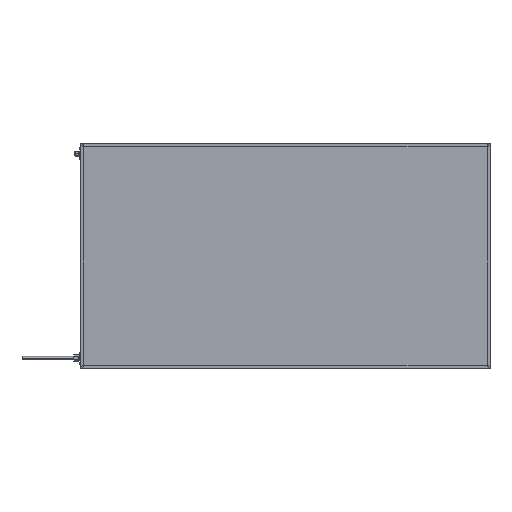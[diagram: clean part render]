
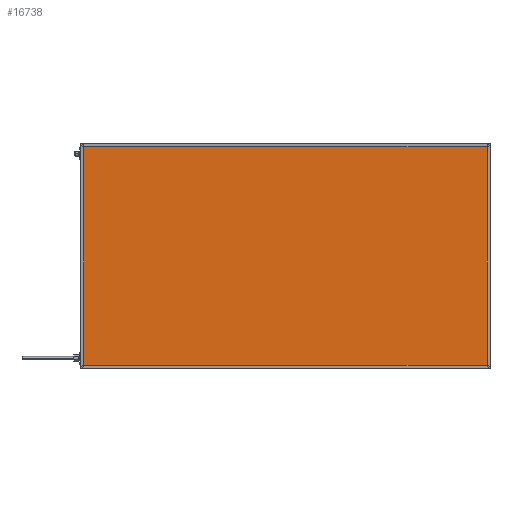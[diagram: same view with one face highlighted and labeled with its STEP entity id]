
A CAD part, top view. The second image highlights one B-rep face of the part: STEP entity #16738.
In plain terms, the highlighted planar face has unit normal (0, 0, 1).
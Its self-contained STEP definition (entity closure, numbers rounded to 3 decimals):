
#489 = DIRECTION ( 'NONE',  ( -1., 0., 0. ) ) ;
#678 = CARTESIAN_POINT ( 'NONE',  ( 4., 596., 41.85 ) ) ;
#704 = VECTOR ( 'NONE', #6067, 1000. ) ;
#820 = LINE ( 'NONE', #9307, #704 ) ;
#2026 = DIRECTION ( 'NONE',  ( 0., 0., -1. ) ) ;
#3065 = LINE ( 'NONE', #4616, #9672 ) ;
#3900 = EDGE_CURVE ( 'NONE', #16006, #14913, #16747, .T. ) ;
#3902 = VECTOR ( 'NONE', #17191, 1000. ) ;
#4616 = CARTESIAN_POINT ( 'NONE',  ( 4., 0., 41.85 ) ) ;
#5105 = CARTESIAN_POINT ( 'NONE',  ( 1096., 596., 41.85 ) ) ;
#6067 = DIRECTION ( 'NONE',  ( -1., 0., 0. ) ) ;
#6079 = DIRECTION ( 'NONE',  ( 1., 0., 0. ) ) ;
#8795 = FACE_OUTER_BOUND ( 'NONE', #14508, .T. ) ;
#9005 = DIRECTION ( 'NONE',  ( 0., -1., 0. ) ) ;
#9307 = CARTESIAN_POINT ( 'NONE',  ( 0., 596., 41.85 ) ) ;
#9672 = VECTOR ( 'NONE', #9005, 1000. ) ;
#11446 = VERTEX_POINT ( 'NONE', #678 ) ;
#11548 = CARTESIAN_POINT ( 'NONE',  ( 0., 4., 41.85 ) ) ;
#11662 = CARTESIAN_POINT ( 'NONE',  ( 4., 4., 41.85 ) ) ;
#11843 = ORIENTED_EDGE ( 'NONE', *, *, #3900, .T. ) ;
#12480 = EDGE_CURVE ( 'NONE', #11446, #16006, #3065, .T. ) ;
#12861 = VECTOR ( 'NONE', #6079, 1000. ) ;
#12997 = CARTESIAN_POINT ( 'NONE',  ( 0., 0., 41.85 ) ) ;
#14421 = AXIS2_PLACEMENT_3D ( 'NONE', #12997, #2026, #489 ) ;
#14508 = EDGE_LOOP ( 'NONE', ( #17034, #17215, #16241, #11843 ) ) ;
#14913 = VERTEX_POINT ( 'NONE', #15493 ) ;
#15352 = EDGE_CURVE ( 'NONE', #14913, #16078, #15734, .T. ) ;
#15493 = CARTESIAN_POINT ( 'NONE',  ( 1096., 4., 41.85 ) ) ;
#15734 = LINE ( 'NONE', #15924, #3902 ) ;
#15740 = EDGE_CURVE ( 'NONE', #16078, #11446, #820, .T. ) ;
#15924 = CARTESIAN_POINT ( 'NONE',  ( 1096., 0., 41.85 ) ) ;
#16006 = VERTEX_POINT ( 'NONE', #11662 ) ;
#16078 = VERTEX_POINT ( 'NONE', #5105 ) ;
#16241 = ORIENTED_EDGE ( 'NONE', *, *, #12480, .T. ) ;
#16738 = ADVANCED_FACE ( 'NONE', ( #8795 ), #17175, .F. ) ;
#16747 = LINE ( 'NONE', #11548, #12861 ) ;
#17034 = ORIENTED_EDGE ( 'NONE', *, *, #15352, .T. ) ;
#17175 = PLANE ( 'NONE',  #14421 ) ;
#17191 = DIRECTION ( 'NONE',  ( 0., 1., 0. ) ) ;
#17215 = ORIENTED_EDGE ( 'NONE', *, *, #15740, .T. ) ;
